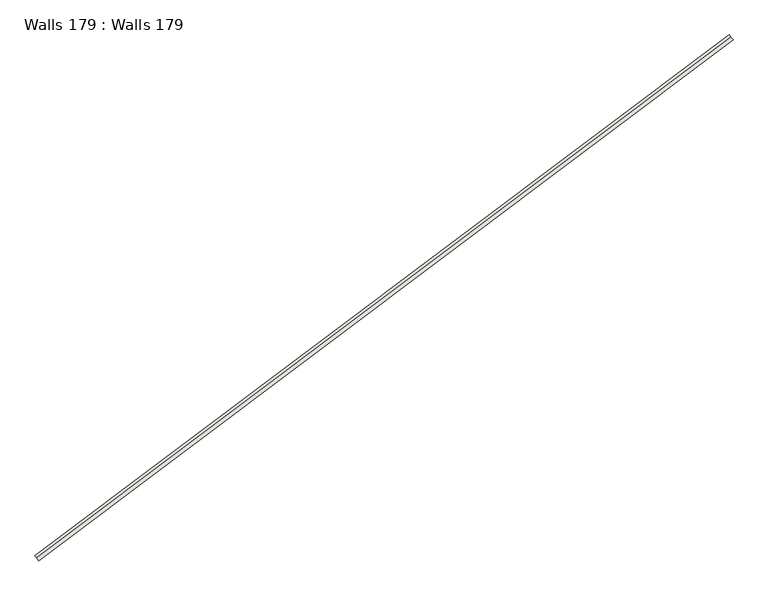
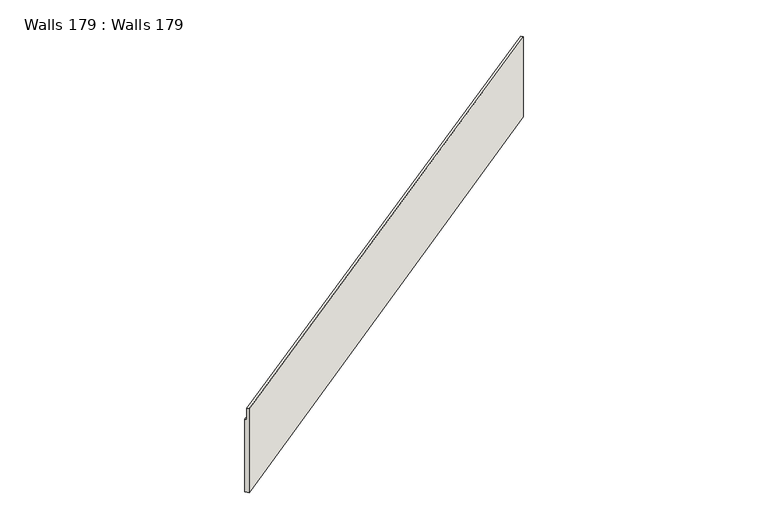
"""IFC4 building model written with IfcOpenShell, lengths in millimetres: wall geometry, Walls 179 : Walls 179."""

from ifc_helpers import new_model, si_unit, origin, place, context, project, spatial, faceted_brep, source, transform, mapped, element, save


def walls_179_walls_179_5a8b6dc5(model_context):
    return source(origin(), model_context, "Body", "Brep", [
        faceted_brep([(272875.9439253, 199989.9240319, 650299.6708418), (272755.8917328, 200149.8848743, 650299.6708418), (272755.8917328, 200149.8848743, 649299.6708418), (272665.8525884, 200269.855506, 649299.6708418), (272665.8525884, 200269.855506, 643130.1185189), (272875.9439253, 199989.9240319, 643130.1185189), (311941.799157, 229309.2343345, 650580.1041461), (311941.799157, 229309.2343345, 643770.3786588), (311731.7078202, 229589.1658085, 643770.3786588), (311731.7078202, 229589.1658085, 649580.1041461), (311821.7469645, 229469.1951768, 649580.1041461), (311821.7469645, 229469.1951768, 650580.1041461)], [[[0, 1, 2, 3, 4, 5]], [[6, 7, 8, 9, 10, 11]], [[6, 11, 1, 0]], [[11, 10, 2, 1]], [[10, 9, 3, 2]], [[9, 8, 4, 3]], [[8, 7, 5, 4]], [[7, 6, 0, 5]]]),
    ])


if __name__ == "__main__":
    model = new_model("IFC4")
    model_context = context("Model", 3, world=origin())
    ifc_project = project(units=[si_unit("LENGTHUNIT", "METRE", prefix="MILLI")], contexts=[model_context])
    site = spatial("IfcSite", under=ifc_project)
    building = spatial("IfcBuilding", under=site)
    placement = place(None, origin())
    walls_179_walls_179_shape = walls_179_walls_179_5a8b6dc5(model_context)
    element("IfcWall", 1, ObjectType="Walls 179 : Walls 179", at=placement, inside=building, context=model_context, shape_type="MappedRepresentation", body=[
        mapped(walls_179_walls_179_shape, transform((0.0, 0.0, 0.0), x_axis=(1.0, 0.0, 0.0), y_axis=(0.0, 1.0, 0.0), z_axis=(0.0, 0.0, 1.0))),
    ])
    save(model, "model.ifc")
